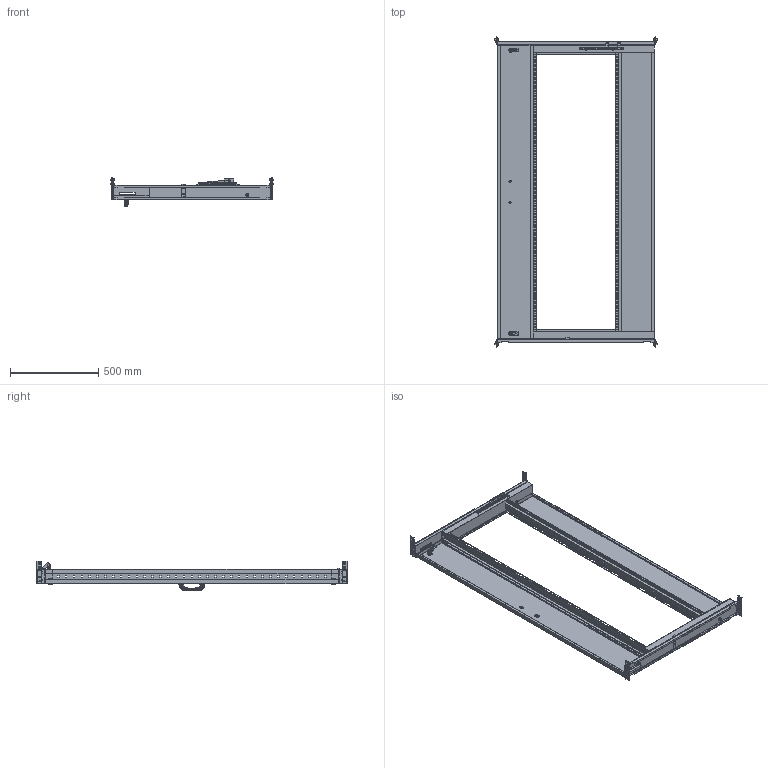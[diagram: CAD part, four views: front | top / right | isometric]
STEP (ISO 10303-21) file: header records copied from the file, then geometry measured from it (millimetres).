
FILE_DESCRIPTION(('Open CASCADE Model'),'2;1');
FILE_NAME('Open CASCADE Shape Model','2025-03-20T14:54:16',('Author'),( 'Open CASCADE'),'Open CASCADE STEP processor 7.8','Open CASCADE 7.8' ,'Unknown');
FILE_SCHEMA(('AUTOMOTIVE_DESIGN { 1 0 10303 214 1 1 1 1 }'));
Length unit declared in the file: millimetre
Products named in the file (37): Compound1; Compound2; Solid1; Solid2; Solid3; Compound3; Solid4; Solid5; Solid6; Solid7; Solid8; Solid9; Solid10; Solid11; Solid12; Solid13; Solid14; Solid15; Solid16; Solid17; Solid18; Compound4; Solid19; Solid20; Solid21; Solid22; Solid23; Solid24; Solid25; Solid26; Solid27; Solid28; Compound5; Solid29; Solid30; Solid31; Solid32
Assembly tree (59 placements, depth 3):
  Compound1
    Compound2
      Solid1
      Solid2  x2
      Solid3
    Compound3
      Solid4
      Solid2  x2
      Solid3
    Solid5  x2
    Solid6  x2
    Solid7
    Solid8
    Solid9
    Solid10
    Solid11
    Solid12
    Solid13  x2
    Solid14  x4
    Solid15  x8
    Solid16
    Solid17  x2
    Solid18  x2
    Compound4
      Solid19
      Solid20
      Solid21
      Solid22  x2
      Solid23
      Solid24  x2
      Solid25
      Solid26
      Solid27  x2
      Solid28  x2
    Compound5
      Solid29
      Solid30
    Solid31
    Solid32
Bounding box: 926 x 1755 x 165.5 mm (x, y, z)
Volume: 3114254.6 mm3; surface area: 3977541.7 mm2
Topology: 57 solids, 75 shells, 5845 faces, 16338 edges, 10577 vertices
Faces by surface type: plane 3768, cylinder 714, bspline 670, cone 439, torus 176, sphere 78
Entity records: 175917 total; most frequent: CARTESIAN_POINT 57421, ORIENTED_EDGE 25926, DIRECTION 21199, EDGE_CURVE 13133, LINE 9687, VECTOR 9687, VERTEX_POINT 8545, FACE_BOUND 5840
